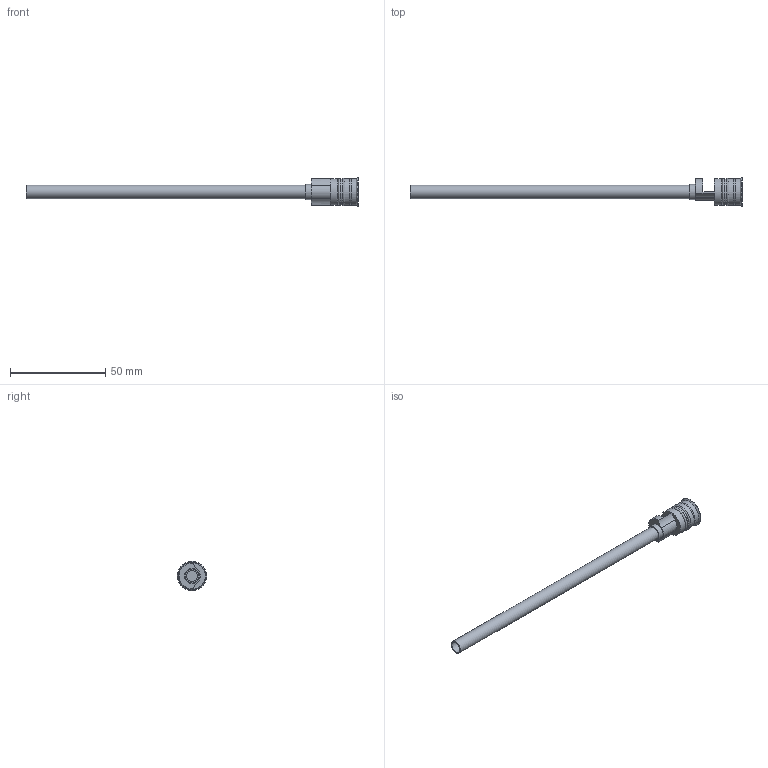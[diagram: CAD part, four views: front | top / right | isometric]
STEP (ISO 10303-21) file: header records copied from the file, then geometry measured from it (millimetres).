
FILE_DESCRIPTION( ( 'STEP AP214' ), '1' );
FILE_NAME( 'p:/temp/worker_240/temp/exporttempdir_1400_670_6tjgR/format_0/RF-14Fx150.stp', '2021-02-05T19:48:41', ( 'License CC BY-ND 4.0' ), ( 'CADENAS' ), ' ', 'PARTsolutions', ' ' );
FILE_SCHEMA( ( 'AUTOMOTIVE_DESIGN { 1 0 10303 214 1 1 1 1 }' ) );
Length unit declared in the file: millimetre
Products named in the file (1): _RF-14Fx150
Bounding box: 174.5 x 15.3 x 15.3 mm (x, y, z)
Volume: 4157.1 mm3; surface area: 7998.9 mm2
Topology: 1 solids, 1 shells, 47 faces, 109 edges, 69 vertices
Faces by surface type: plane 26, cylinder 13, cone 5, torus 3
Full cylindrical faces by diameter (mm): 6 x2, 7 x1, 8 x1, 14 x4, 15.3 x1
Entity records: 1643 total; most frequent: CARTESIAN_POINT 225, DIRECTION 217, ORIENTED_EDGE 182, EDGE_CURVE 91, AXIS2_PLACEMENT_3D 83, EDGE_LOOP 70, VERTEX_POINT 69, FACE_OUTER_BOUND 59
